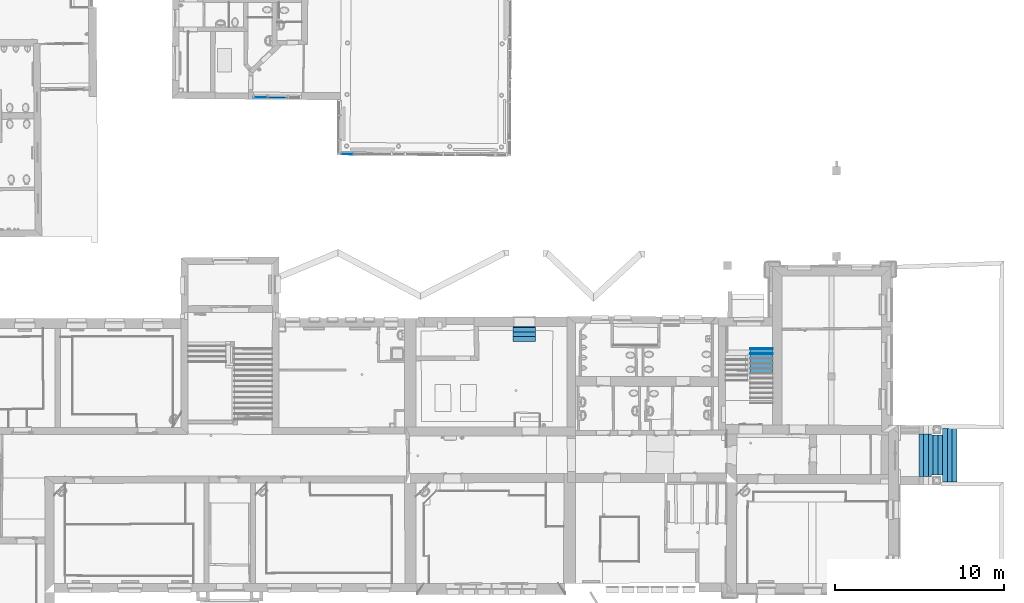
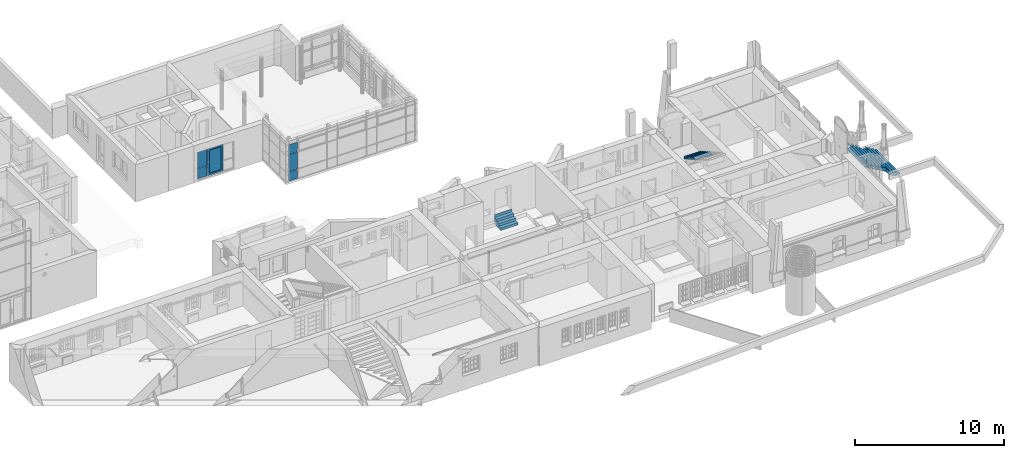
# One storey, part 138 of 196: 16 building element parts, 5 elements without a shape of their own.
"""IFC2X3 building model written with IfcOpenShell, lengths in metres."""

from ifc_helpers import new_model, entity, si_unit, converted_unit, derived_unit, money_unit, direction, frame, origin_with_axes, place, context, subcontext, project, spatial, faceted_brep, material, type_object, element, aggregate, save


model = new_model("IFC2X3")

# Units and contexts
model_context = context("Model", 3, precision=1e-05, world=origin_with_axes(), true_north=direction((0.0, 1.0)))
body_context = subcontext(model_context, "Body", "Model", "MODEL_VIEW")
ifc_project = project(units=[si_unit("LENGTHUNIT", "METRE"), si_unit("AREAUNIT", "SQUARE_METRE"), si_unit("VOLUMEUNIT", "CUBIC_METRE"), converted_unit("PLANEANGLEUNIT", "DEGREE", entity("IfcPlaneAngleMeasure", 0.0174532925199), si_unit("PLANEANGLEUNIT", "RADIAN"), dimensions=[0, 0, 0, 0, 0, 0, 0]), money_unit("EUR"), converted_unit("TIMEUNIT", "Year", entity("IfcTimeMeasure", 31556926.0), si_unit("TIMEUNIT", "SECOND"), dimensions=[0, 0, 1, 0, 0, 0, 0]), si_unit("MASSUNIT", "GRAM", prefix="KILO"), si_unit("THERMODYNAMICTEMPERATUREUNIT", "DEGREE_CELSIUS"), si_unit("LUMINOUSINTENSITYUNIT", "LUMEN"), si_unit("ENERGYUNIT", "JOULE", prefix="MEGA"), derived_unit("THERMALCONDUCTANCEUNIT", [(si_unit("POWERUNIT", "WATT"), 1), (si_unit("LENGTHUNIT", "METRE"), -1), (si_unit("THERMODYNAMICTEMPERATUREUNIT", "KELVIN"), -1)]), derived_unit("SPECIFICHEATCAPACITYUNIT", [(si_unit("ENERGYUNIT", "JOULE"), 1), (si_unit("MASSUNIT", "GRAM", prefix="KILO"), -1), (si_unit("THERMODYNAMICTEMPERATUREUNIT", "KELVIN"), -1)]), derived_unit("MASSDENSITYUNIT", [(si_unit("MASSUNIT", "GRAM", prefix="KILO"), 1), (si_unit("VOLUMEUNIT", "CUBIC_METRE"), -1)])], contexts=[model_context])

# Site, building, storey
site_placement = place(None, origin_with_axes())
site = spatial("IfcSite", under=ifc_project, at=site_placement, Name="Gelände", CompositionType="ELEMENT")
building_placement = place(site_placement, origin_with_axes())
building = spatial("IfcBuilding", under=site, at=building_placement, Name="Gebäude", CompositionType="ELEMENT")
storey_placement = place(building_placement, frame((0.0, 0.0, -3.0), z_axis=(0.0, 0.0, 1.0), x_axis=(1.0, 0.0, 0.0)))
storey = spatial("IfcBuildingStorey", under=building, at=storey_placement, Name="KELLERGESCHOSS", CompositionType="ELEMENT", Elevation=-3.0)

# Proxy, building element parts
building_element_proxy_type = type_object("IfcBuildingElementProxyType", Name="Fassadentyp", PredefinedType="NOTDEFINED")
proxy_1_placement = place(storey_placement, frame((2.54090824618, 35.7894672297, 0.610000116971), z_axis=(0.0, 0.0, 1.0), x_axis=(1.0, 0.0, 0.0)))
proxy_1 = element("IfcBuildingElementProxy", 1, at=proxy_1_placement, inside=storey, type_object=building_element_proxy_type, Name="Fassade-002")
ifc_material_1 = material(Name="45_Glas, Normalglas")
building_element_part_1_placement = place(proxy_1_placement, origin_with_axes())
building_element_part_1 = element("IfcBuildingElementPart", 2, at=building_element_part_1_placement, material=ifc_material_1, Name="45_Glas, Normalglas", context=body_context, shape_type="Brep", body=[
    faceted_brep([(-2.63393269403, 0.03908636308, 3.02649576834), (-3.31904617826, 0.0440507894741, 3.02649576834), (-3.31933601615, 0.00405183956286, 3.02649576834), (-2.63422253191, -0.000912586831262, 3.02649576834), (-2.63393269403, 0.03908636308, 2.51999988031), (-2.63393269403, 0.03908636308, 2.22648768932), (-3.31904617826, 0.0440507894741, 2.22648768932), (-3.31904617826, 0.0440507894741, 2.51999988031), (-3.31933601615, 0.00405183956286, 2.51999988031), (-3.31933601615, 0.00405183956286, 2.22648768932), (-2.63422253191, -0.000912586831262, 2.22648768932), (-2.63422253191, -0.000912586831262, 2.51999988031)], [[[0, 1, 2, 3]], [[0, 4, 5, 6, 7, 1]], [[1, 7, 8, 2]], [[3, 2, 8, 9, 10, 11]], [[4, 0, 3, 11]], [[5, 4, 11, 10]], [[6, 5, 10, 9]], [[7, 6, 9, 8]]]),
])
building_element_part_2_placement = place(proxy_1_placement, origin_with_axes())
building_element_part_2 = element("IfcBuildingElementPart", 3, at=building_element_part_2_placement, material=ifc_material_1, Name="45_Glas, Normalglas", context=body_context, shape_type="Brep", body=[
    faceted_brep([(-2.63393270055, 0.0390863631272, 0.808463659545), (-3.31904617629, 0.0440507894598, 0.808463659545), (-3.31933601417, 0.00405183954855, 0.808463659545), (-2.63422253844, -0.000912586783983, 0.808463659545), (-2.63393270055, 0.0390863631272, 0.619999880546), (-2.63393270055, 0.0390863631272, 0.0349999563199), (-3.31904617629, 0.0440507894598, 0.0350000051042), (-3.31904617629, 0.0440507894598, 0.619999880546), (-3.31933601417, 0.00405183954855, 0.619999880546), (-3.31933601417, 0.00405183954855, 0.0350000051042), (-2.63422253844, -0.000912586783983, 0.0349999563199), (-2.63422253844, -0.000912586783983, 0.619999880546)], [[[0, 1, 2, 3]], [[0, 4, 5, 6, 7, 1]], [[1, 7, 8, 2]], [[3, 2, 8, 9, 10, 11]], [[4, 0, 3, 11]], [[5, 4, 11, 10]], [[6, 5, 10, 9]], [[7, 6, 9, 8]]]),
])
building_element_part_3_placement = place(proxy_1_placement, origin_with_axes())
building_element_part_3 = element("IfcBuildingElementPart", 4, at=building_element_part_3_placement, material=ifc_material_1, Name="45_Glas, Normalglas", context=body_context, shape_type="Brep", body=[
    faceted_brep([(-2.63393269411, 0.0390863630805, 2.20648769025), (-3.31904618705, 0.0440507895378, 2.20648769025), (-3.31933602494, 0.00405183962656, 2.20648769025), (-2.63422253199, -0.000912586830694, 2.20648769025), (-2.63393269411, 0.0390863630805, 1.41999988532), (-2.63393269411, 0.0390863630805, 0.828463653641), (-3.31904618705, 0.0440507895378, 0.828463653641), (-3.31904618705, 0.0440507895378, 1.41999988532), (-3.31933602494, 0.00405183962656, 1.41999988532), (-3.31933602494, 0.00405183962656, 0.828463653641), (-2.63422253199, -0.000912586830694, 0.828463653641), (-2.63422253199, -0.000912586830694, 1.41999988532)], [[[0, 1, 2, 3]], [[0, 4, 5, 6, 7, 1]], [[1, 7, 8, 2]], [[3, 2, 8, 9, 10, 11]], [[4, 0, 3, 11]], [[5, 4, 11, 10]], [[6, 5, 10, 9]], [[7, 6, 9, 8]]]),
])
aggregate(proxy_1, [building_element_part_1, building_element_part_2, building_element_part_3])

proxy_2_placement = place(storey_placement, frame((-5.58247621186, 39.1627608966, 0.57767685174), z_axis=(0.0, 0.0, 1.0), x_axis=(1.0, 0.0, 0.0)))
proxy_2 = element("IfcBuildingElementProxy", 5, at=proxy_2_placement, inside=storey, type_object=building_element_proxy_type, Name="Fassade-002")
building_element_part_4_placement = place(proxy_2_placement, origin_with_axes())
building_element_part_4 = element("IfcBuildingElementPart", 6, at=building_element_part_4_placement, material=ifc_material_1, Name="45_Glas, Normalglas", context=body_context, shape_type="Brep", body=[
    faceted_brep([(0.398165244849, 0.0158505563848, 2.21581791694), (-0.372749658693, 0.0238866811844, 2.21581791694), (-0.373166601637, -0.0161111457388, 2.21581791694), (0.397748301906, -0.0241472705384, 2.21581791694), (0.398165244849, 0.0158505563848, 1.41999992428), (0.398165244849, 0.0158505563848, 0.879344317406), (-0.372749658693, 0.0238866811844, 0.879344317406), (-0.372749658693, 0.0238866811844, 1.41999992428), (-0.373166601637, -0.0161111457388, 1.41999992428), (-0.373166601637, -0.0161111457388, 0.879344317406), (0.397748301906, -0.0241472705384, 0.879344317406), (0.397748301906, -0.0241472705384, 1.41999992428)], [[[0, 1, 2, 3]], [[0, 4, 5, 6, 7, 1]], [[1, 7, 8, 2]], [[3, 2, 8, 9, 10, 11]], [[4, 0, 3, 11]], [[5, 4, 11, 10]], [[6, 5, 10, 9]], [[7, 6, 9, 8]]]),
])
ifc_material_2 = material(Name="53_Metall, Aluminium")
building_element_part_5_placement = place(proxy_2_placement, origin_with_axes())
building_element_part_5 = element("IfcBuildingElementPart", 7, at=building_element_part_5_placement, material=ifc_material_2, Name="53_Metall, Aluminium", context=body_context, shape_type="Brep", body=[
    faceted_brep([(0.433215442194, 0.0204854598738, 2.2008179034), (0.433215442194, 0.0204854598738, 0.0500000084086), (0.433163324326, 0.0154857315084, 0.0500000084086), (0.433163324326, 0.0154857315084, 2.2008179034), (0.478212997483, 0.0200163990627, 2.2008179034), (0.478212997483, 0.0200163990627, 0.0950000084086), (0.478160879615, 0.0150166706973, 0.0950000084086), (0.478160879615, 0.0150166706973, 2.2008179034)], [[[0, 1, 2, 3]], [[0, 4, 5, 1]], [[1, 5, 6, 2]], [[3, 2, 6, 7]], [[4, 0, 3, 7]], [[5, 4, 7, 6]]]),
    faceted_brep([(1.60053731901, 0.00831713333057, 0.0500000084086), (1.55553976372, 0.00878619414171, 0.0950000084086), (1.55548764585, 0.0037864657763, 0.0950000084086), (1.60048520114, 0.00331740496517, 0.0500000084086), (0.433215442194, 0.0204854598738, 0.0500000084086), (0.478212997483, 0.0200163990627, 0.0950000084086), (0.478160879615, 0.0150166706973, 0.0950000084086), (0.433163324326, 0.0154857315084, 0.0500000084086)], [[[0, 1, 2, 3]], [[0, 4, 5, 1]], [[1, 5, 6, 2]], [[3, 2, 6, 7]], [[4, 0, 3, 7]], [[5, 4, 7, 6]]]),
    faceted_brep([(1.60053731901, 0.00831713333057, 2.2008179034), (1.55553976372, 0.00878619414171, 2.2008179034), (1.55548764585, 0.0037864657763, 2.2008179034), (1.60048520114, 0.00331740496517, 2.2008179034), (1.60053731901, 0.00831713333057, 0.0500000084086), (1.55553976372, 0.00878619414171, 0.0950000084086), (1.55548764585, 0.0037864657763, 0.0950000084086), (1.60048520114, 0.00331740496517, 0.0500000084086)], [[[0, 1, 2, 3]], [[0, 4, 5, 1]], [[1, 5, 6, 2]], [[3, 2, 6, 7]], [[4, 0, 3, 7]], [[5, 4, 7, 6]]]),
    faceted_brep([(0.433163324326, 0.0154857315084, 2.2008179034), (0.433163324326, 0.0154857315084, 0.0500000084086), (0.432642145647, -0.0345115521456, 0.0500000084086), (0.432642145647, -0.0345115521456, 2.2008179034), (0.453162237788, 0.0152772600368, 2.2008179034), (0.453162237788, 0.0152772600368, 0.0700000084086), (0.452641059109, -0.0347200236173, 0.0700000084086), (0.452641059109, -0.0347200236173, 2.2008179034)], [[[0, 1, 2, 3]], [[0, 4, 5, 1]], [[1, 5, 6, 2]], [[3, 2, 6, 7]], [[4, 0, 3, 7]], [[5, 4, 7, 6]]]),
    faceted_brep([(1.60048520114, 0.00331740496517, 0.0500000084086), (1.58048628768, 0.00352587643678, 0.0700000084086), (1.579965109, -0.0464714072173, 0.0700000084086), (1.59996402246, -0.0466798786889, 0.0500000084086), (0.433163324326, 0.0154857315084, 0.0500000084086), (0.453162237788, 0.0152772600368, 0.0700000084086), (0.452641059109, -0.0347200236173, 0.0700000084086), (0.432642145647, -0.0345115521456, 0.0500000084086)], [[[0, 1, 2, 3]], [[0, 4, 5, 1]], [[1, 5, 6, 2]], [[3, 2, 6, 7]], [[4, 0, 3, 7]], [[5, 4, 7, 6]]]),
    faceted_brep([(1.60048520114, 0.00331740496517, 2.2008179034), (1.58048628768, 0.00352587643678, 2.2008179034), (1.579965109, -0.0464714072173, 2.2008179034), (1.59996402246, -0.0466798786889, 2.2008179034), (1.60048520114, 0.00331740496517, 0.0500000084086), (1.58048628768, 0.00352587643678, 0.0700000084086), (1.579965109, -0.0464714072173, 0.0700000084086), (1.59996402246, -0.0466798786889, 0.0500000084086)], [[[0, 1, 2, 3]], [[0, 4, 5, 1]], [[1, 5, 6, 2]], [[3, 2, 6, 7]], [[4, 0, 3, 7]], [[5, 4, 7, 6]]]),
    faceted_brep([(0.418164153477, 0.0156420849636, 0.0349999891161), (1.61548437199, 0.00316105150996, 0.0349999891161), (1.61506742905, -0.0368367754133, 0.0349999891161), (0.417747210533, -0.0243557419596, 0.0349999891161), (0.433163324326, 0.0154857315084, 0.0500000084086), (1.60048520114, 0.00331740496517, 0.0500000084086), (1.6000682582, -0.0366804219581, 0.0500000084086), (0.432746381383, -0.0245120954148, 0.0500000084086)], [[[0, 1, 2, 3]], [[0, 4, 5, 1]], [[1, 5, 6, 2]], [[3, 2, 6, 7]], [[4, 0, 3, 7]], [[5, 4, 7, 6]]]),
    faceted_brep([(1.61548437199, 0.00316105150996, 0.0349999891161), (1.61548437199, 0.00316105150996, 2.21581792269), (1.61506742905, -0.0368367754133, 2.21581792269), (1.61506742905, -0.0368367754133, 0.0349999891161), (1.60048520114, 0.00331740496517, 0.0500000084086), (1.60048520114, 0.00331740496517, 2.2008179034), (1.6000682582, -0.0366804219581, 2.2008179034), (1.6000682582, -0.0366804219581, 0.0500000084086)], [[[0, 1, 2, 3]], [[0, 4, 5, 1]], [[1, 5, 6, 2]], [[3, 2, 6, 7]], [[4, 0, 3, 7]], [[5, 4, 7, 6]]]),
    faceted_brep([(1.61548437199, 0.00316105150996, 2.21581792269), (0.418164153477, 0.0156420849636, 2.21581792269), (0.417747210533, -0.0243557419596, 2.21581792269), (1.61506742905, -0.0368367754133, 2.21581792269), (1.60048520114, 0.00331740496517, 2.2008179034), (0.433163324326, 0.0154857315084, 2.2008179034), (0.432746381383, -0.0245120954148, 2.2008179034), (1.6000682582, -0.0366804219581, 2.2008179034)], [[[0, 1, 2, 3]], [[0, 4, 5, 1]], [[1, 5, 6, 2]], [[3, 2, 6, 7]], [[4, 0, 3, 7]], [[5, 4, 7, 6]]]),
    faceted_brep([(0.418164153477, 0.0156420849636, 2.21581792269), (0.418164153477, 0.0156420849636, 0.0349999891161), (0.417747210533, -0.0243557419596, 0.0349999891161), (0.417747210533, -0.0243557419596, 2.21581792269), (0.433163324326, 0.0154857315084, 2.2008179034), (0.433163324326, 0.0154857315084, 0.0500000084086), (0.432746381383, -0.0245120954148, 0.0500000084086), (0.432746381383, -0.0245120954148, 2.2008179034)], [[[0, 1, 2, 3]], [[0, 4, 5, 1]], [[1, 5, 6, 2]], [[3, 2, 6, 7]], [[4, 0, 3, 7]], [[5, 4, 7, 6]]]),
    faceted_brep([(1.46049280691, 0.00477670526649, 2.0808179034), (1.46049280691, 0.00477670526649, 0.190000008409), (1.45997162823, -0.0452205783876, 0.190000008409), (1.45997162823, -0.0452205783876, 2.0808179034), (1.58048628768, 0.00352587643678, 2.2008179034), (1.58048628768, 0.00352587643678, 0.0700000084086), (1.579965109, -0.0464714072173, 0.0700000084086), (1.579965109, -0.0464714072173, 2.2008179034)], [[[0, 1, 2, 3]], [[0, 4, 5, 1]], [[1, 5, 6, 2]], [[3, 2, 6, 7]], [[4, 0, 3, 7]], [[5, 4, 7, 6]]]),
    faceted_brep([(0.453162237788, 0.0152772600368, 2.2008179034), (0.453162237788, 0.0152772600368, 0.0700000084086), (0.452641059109, -0.0347200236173, 0.0700000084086), (0.452641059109, -0.0347200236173, 2.2008179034), (0.573155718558, 0.0140264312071, 2.0808179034), (0.573155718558, 0.0140264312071, 0.190000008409), (0.572634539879, -0.035970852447, 0.190000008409), (0.572634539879, -0.035970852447, 2.0808179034)], [[[0, 1, 2, 3]], [[0, 4, 5, 1]], [[1, 5, 6, 2]], [[3, 2, 6, 7]], [[4, 0, 3, 7]], [[5, 4, 7, 6]]]),
    faceted_brep([(0.453162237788, 0.0152772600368, 2.2008179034), (0.573155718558, 0.0140264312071, 2.0808179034), (0.572634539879, -0.035970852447, 2.0808179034), (0.452641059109, -0.0347200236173, 2.2008179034), (1.58048628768, 0.00352587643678, 2.2008179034), (1.46049280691, 0.00477670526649, 2.0808179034), (1.45997162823, -0.0452205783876, 2.0808179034), (1.579965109, -0.0464714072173, 2.2008179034)], [[[0, 1, 2, 3]], [[0, 4, 5, 1]], [[1, 5, 6, 2]], [[3, 2, 6, 7]], [[4, 0, 3, 7]], [[5, 4, 7, 6]]]),
    faceted_brep([(1.58048628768, 0.00352587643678, 0.0700000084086), (1.46049280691, 0.00477670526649, 0.190000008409), (1.45997162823, -0.0452205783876, 0.190000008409), (1.579965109, -0.0464714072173, 0.0700000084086), (0.453162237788, 0.0152772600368, 0.0700000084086), (0.573155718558, 0.0140264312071, 0.190000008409), (0.572634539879, -0.035970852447, 0.190000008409), (0.452641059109, -0.0347200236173, 0.0700000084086)], [[[0, 1, 2, 3]], [[0, 4, 5, 1]], [[1, 5, 6, 2]], [[3, 2, 6, 7]], [[4, 0, 3, 7]], [[5, 4, 7, 6]]]),
])
building_element_part_6_placement = place(proxy_2_placement, origin_with_axes())
building_element_part_6 = element("IfcBuildingElementPart", 8, at=building_element_part_6_placement, material=ifc_material_1, Name="45_Glas, Normalglas", context=body_context, shape_type="Brep", body=[
    faceted_brep([(1.46024264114, -0.0192219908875, 2.0808179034), (0.572905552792, -0.00997226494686, 2.0808179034), (0.572738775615, -0.0259713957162, 2.0808179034), (1.46007586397, -0.0352211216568, 2.0808179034), (1.46024264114, -0.0192219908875, 0.190000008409), (0.572905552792, -0.00997226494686, 0.190000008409), (0.572738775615, -0.0259713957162, 0.190000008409), (1.46007586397, -0.0352211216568, 0.190000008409)], [[[0, 1, 2, 3]], [[0, 4, 5, 1]], [[1, 5, 6, 2]], [[3, 2, 6, 7]], [[4, 0, 3, 7]], [[5, 4, 7, 6]]]),
])
building_element_part_7_placement = place(proxy_2_placement, origin_with_axes())
building_element_part_7 = element("IfcBuildingElementPart", 9, at=building_element_part_7_placement, material=ifc_material_1, Name="45_Glas, Normalglas", context=body_context, shape_type="Brep", body=[
    faceted_brep([(0.398165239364, 0.015850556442, 0.859344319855), (-0.372749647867, 0.0238866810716, 0.859344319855), (-0.37316659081, -0.0161111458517, 0.859344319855), (0.397748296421, -0.0241472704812, 0.859344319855), (0.398165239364, 0.015850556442, 0.619999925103), (0.398165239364, 0.015850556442, 0.0350000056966), (-0.372749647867, 0.0238866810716, 0.0350000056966), (-0.372749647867, 0.0238866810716, 0.619999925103), (-0.37316659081, -0.0161111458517, 0.619999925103), (-0.37316659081, -0.0161111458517, 0.0350000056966), (0.397748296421, -0.0241472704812, 0.0350000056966), (0.397748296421, -0.0241472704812, 0.619999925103)], [[[0, 1, 2, 3]], [[0, 4, 5, 6, 7, 1]], [[1, 7, 8, 2]], [[3, 2, 8, 9, 10, 11]], [[4, 0, 3, 11]], [[5, 4, 11, 10]], [[6, 5, 10, 9]], [[7, 6, 9, 8]]]),
])
aggregate(proxy_2, [building_element_part_4, building_element_part_5, building_element_part_6, building_element_part_7])

# Stair, building element part
stair_1_placement = place(storey_placement, frame((35.5514204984, 17.3617552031, 0.217201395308), z_axis=(0.0, 0.0, 1.0), x_axis=(0.000899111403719, 0.999999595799, 0.0)))
stair_1 = element("IfcStair", 10, at=stair_1_placement, inside=storey, Name="Treppe-003", ShapeType="NOTDEFINED")
ifc_material_3 = material(Name="05_ALLGEMEIN - TRAGENDE BAUTEILE")
building_element_part_8_placement = place(stair_1_placement, origin_with_axes())
building_element_part_8 = element("IfcBuildingElementPart", 11, at=building_element_part_8_placement, material=ifc_material_3, Name="05_ALLGEMEIN - TRAGENDE BAUTEILE", context=body_context, shape_type="Brep", body=[
    faceted_brep([(1.927853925, 2.2412398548, 1.52279860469), (-0.587901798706, 2.23897790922, 1.52279860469), (-0.587916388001, 2.23705655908, 1.52279860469), (2.2349659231, 2.23940827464, 1.52279860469), (2.23496302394, 2.24288827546, 1.52279860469), (1.92787517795, 2.24474843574, 1.52279860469), (1.927853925, 2.2412398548, 1.35979860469), (1.927853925, 2.2412398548, 1.27829860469), (-0.587901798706, 2.23897790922, 1.27829860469), (-0.585927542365, 2.49897933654, 1.27829860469), (-0.588624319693, 2.14382487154, 1.06345004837), (-0.589332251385, 2.050593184, 1.00705010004), (-0.590040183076, 1.95736149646, 0.950650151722), (-0.590748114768, 1.86412980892, 0.8942502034), (-0.59145604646, 1.77089812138, 0.837850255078), (-0.592163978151, 1.67766643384, 0.781450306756), (-0.592871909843, 1.5844347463, 0.725050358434), (-0.593542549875, 1.4961142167, 0.671621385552), (-0.593542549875, 1.4961142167, 1.01519906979), (-0.592163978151, 1.67766643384, 1.01519906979), (-0.592163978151, 1.67766643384, 1.18439891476), (-0.590040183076, 1.95736149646, 1.18439891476), (-0.590040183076, 1.95736149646, 1.35359875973), (-0.587916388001, 2.23705655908, 1.35359875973), (1.92784128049, 2.23915241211, 1.35359875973), (1.92784128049, 2.23915241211, 1.35979860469), (2.2349659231, 2.23940827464, 1.35979860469), (2.23496302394, 2.24288827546, 1.35979860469), (1.92787517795, 2.24474843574, 1.35979860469), (1.92616810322, 1.96293298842, 1.35359875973), (1.92616810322, 1.96293298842, 1.19679860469), (1.92614705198, 1.95945770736, 1.19679860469), (1.92614705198, 1.95945770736, 1.18439891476), (1.92447387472, 1.68323828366, 1.18439891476), (1.92447387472, 1.68323828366, 1.03379860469), (1.92445282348, 1.67976300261, 1.03379860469), (1.92445282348, 1.67976300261, 1.01519906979), (1.92335046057, 1.4977774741, 1.01519906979), (1.92335046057, 1.4977774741, 0.671359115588), (1.92388808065, 1.58653143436, 0.725050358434), (1.92445282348, 1.67976300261, 0.781450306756), (1.92501756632, 1.77299457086, 0.837850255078), (1.92558230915, 1.86622613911, 0.8942502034), (1.92614705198, 1.95945770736, 0.950650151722), (1.92671179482, 2.05268927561, 1.00705010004), (1.92727653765, 2.14592084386, 1.06345004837), (1.92942785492, 2.50107485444, 1.27829860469), (1.86703433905, 1.49839963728, 0.67176387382), (1.86697747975, 1.49325292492, 0.668650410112), (-0.494773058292, 1.49128537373, 0.668650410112), (-0.494731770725, 1.49502258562, 0.670911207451), (-0.494731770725, 1.49502258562, 1.01519906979), (1.86703433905, 1.49839963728, 1.01519906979), (-0.495803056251, 1.39805341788, 1.01519906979), (1.86594748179, 1.40002096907, 1.01519906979), (2.23543194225, 1.68002207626, 1.03379860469), (2.23543194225, 1.68002207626, 1.18439891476), (2.23543083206, 1.68135468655, 1.18439891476), (2.23519893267, 1.95971517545, 1.19679860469), (2.23519893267, 1.95971517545, 1.35359875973), (2.23519781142, 1.96106106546, 1.35359875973), (2.23519781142, 1.96106106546, 1.19679860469), (2.23543083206, 1.68135468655, 1.03379860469), (1.86285748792, 1.12032510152, 0.443050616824), (1.86388748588, 1.21355705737, 0.499450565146), (1.86491748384, 1.30678901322, 0.555850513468), (1.86594748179, 1.40002096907, 0.61225046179), (1.86594748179, 1.40002096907, 0.845999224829), (1.86285748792, 1.12032510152, 0.845999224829), (1.86285748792, 1.12032510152, 0.676799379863), (1.85990901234, 0.853438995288, 0.676799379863), (1.85990901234, 0.853438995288, 0.281599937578), (1.860797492, 0.933861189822, 0.330250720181), (1.86182748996, 1.02709314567, 0.386650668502), (-0.495803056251, 1.39805341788, 0.61225046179), (-0.496833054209, 1.30482146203, 0.555850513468), (-0.497863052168, 1.21158950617, 0.499450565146), (-0.498893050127, 1.11835755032, 0.443050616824), (-0.499923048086, 1.02512559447, 0.386650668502), (-0.500953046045, 0.931893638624, 0.330250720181), (-0.50185709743, 0.850061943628, 0.28074727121), (-0.50185709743, 0.850061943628, 0.676799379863), (-0.498893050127, 1.11835755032, 0.676799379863), (-0.498893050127, 1.11835755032, 0.845999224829), (-0.495803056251, 1.39805341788, 0.845999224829), (-0.909748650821, 0.854568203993, 0.676799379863), (-0.909735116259, 0.838321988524, 0.676799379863), (2.23613097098, 0.840942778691, 0.676799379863), (2.23612402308, 0.849282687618, 0.676799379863), (2.23612402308, 0.849282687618, 0.278895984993), (-0.909748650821, 0.854568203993, 0.283678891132), (2.23613097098, 0.840942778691, 0.273850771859), (-0.909735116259, 0.838321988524, 0.273850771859), (-0.909357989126, 0.3856373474, 0.0), (-0.90903608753, -0.000757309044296, 0.0), (-0.90903608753, -0.000757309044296, 0.169199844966), (-0.909269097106, 0.278935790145, 0.169199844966), (-0.909269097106, 0.278935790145, 0.338399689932), (-0.909502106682, 0.558628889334, 0.338399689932), (-0.909502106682, 0.558628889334, 0.507599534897), (-0.909735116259, 0.838321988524, 0.507599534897), (-0.9096574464, 0.74509095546, 0.217450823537), (-0.909579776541, 0.651859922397, 0.161050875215), (-0.909502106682, 0.558628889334, 0.104650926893), (-0.909424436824, 0.465397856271, 0.048250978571), (2.23613097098, 0.840942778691, 0.507599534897), (2.23659699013, 0.281556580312, 0.338399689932), (2.23659699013, 0.281556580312, 0.169199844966), (2.23682999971, 0.00186348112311, 0.169199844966), (2.23682999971, 0.00186348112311, 0.0), (2.23650809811, 0.388258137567, 0.0), (2.23644165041, 0.468018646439, 0.048250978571), (2.23636398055, 0.561249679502, 0.104650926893), (2.2362863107, 0.654480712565, 0.161050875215), (2.23620864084, 0.747711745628, 0.217450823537), (2.23636398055, 0.561249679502, 0.507599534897), (2.23636398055, 0.561249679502, 0.338399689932)], [[[0, 1, 2, 3, 4, 5]], [[1, 0, 6, 7, 8]], [[8, 9, 10, 11, 12, 13, 14, 15, 16, 17, 18, 19, 20, 21, 22, 23, 2, 1]], [[3, 2, 23, 24, 25, 26]], [[27, 4, 3, 26]], [[28, 5, 4, 27]], [[0, 5, 28, 6]], [[7, 6, 25, 24, 29, 30, 31, 32, 33, 34, 35, 36, 37, 38, 39, 40, 41, 42, 43, 44, 45, 46]], [[7, 46, 9, 8]], [[9, 46, 45, 10]], [[45, 44, 11, 10]], [[44, 43, 12, 11]], [[42, 13, 12, 43]], [[13, 42, 41, 14]], [[14, 41, 40, 15]], [[40, 39, 16, 15]], [[47, 48, 49, 50, 17, 16, 39, 38]], [[18, 17, 50, 51]], [[52, 37, 36, 19, 18, 51, 53, 54]], [[35, 55, 56, 20, 19, 36]], [[33, 32, 21, 20, 56, 57]], [[58, 59, 22, 21, 32, 31]], [[24, 23, 22, 59, 60, 29]], [[6, 28, 27, 26, 25]], [[60, 61, 30, 29]], [[30, 61, 58, 31]], [[34, 33, 57, 62]], [[35, 34, 62, 55]], [[52, 47, 38, 37]], [[63, 64, 65, 66, 48, 47, 52, 54, 67, 68, 69, 70, 71, 72, 73]], [[66, 74, 49, 48]], [[50, 49, 74, 75, 76, 77, 78, 79, 80, 81, 82, 83, 84, 53, 51]], [[54, 53, 84, 67]], [[55, 62, 57, 56]], [[59, 58, 61, 60]], [[63, 77, 76, 64]], [[64, 76, 75, 65]], [[65, 75, 74, 66]], [[67, 84, 83, 68]], [[68, 83, 82, 69]], [[82, 81, 85, 86, 87, 88, 70, 69]], [[89, 71, 70, 88]], [[90, 80, 79, 72, 71, 89, 91, 92]], [[72, 79, 78, 73]], [[73, 78, 77, 63]], [[90, 85, 81, 80]], [[93, 94, 95, 96, 97, 98, 99, 100, 86, 85, 90, 92, 101, 102, 103, 104]], [[100, 105, 87, 86]], [[106, 107, 108, 109, 110, 111, 112, 113, 114, 91, 89, 88, 87, 105, 115, 116]], [[92, 91, 114, 101]], [[93, 110, 109, 94]], [[94, 109, 108, 95]], [[95, 108, 107, 96]], [[96, 107, 106, 97]], [[97, 106, 116, 98]], [[98, 116, 115, 99]], [[99, 115, 105, 100]], [[101, 114, 113, 102]], [[102, 113, 112, 103]], [[103, 112, 111, 104]], [[104, 111, 110, 93]]]),
    faceted_brep([(-0.868220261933, 2.23682304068, 1.35979860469), (-0.868220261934, 2.23682304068, 1.52279860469), (-0.91090016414, 2.23678748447, 1.52279860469), (-0.91090016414, 2.23678748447, 1.35979860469), (-0.910900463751, 2.2371471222, 1.52279860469), (-0.910900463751, 2.2371471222, 1.35979860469)], [[[0, 1, 2, 3]], [[4, 1, 0, 5]], [[1, 4, 2]], [[4, 5, 3, 2]], [[5, 0, 3]]]),
])
aggregate(stair_1, [building_element_part_8])

stair_2_placement = place(storey_placement, frame((9.33941208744, 24.7602296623, -0.263535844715), z_axis=(0.0, 0.0, 1.0), x_axis=(0.999967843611, 0.00801946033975, 0.0)))
stair_2 = element("IfcStair", 12, at=stair_2_placement, inside=storey, Name="Treppe-003", ShapeType="NOTDEFINED")
building_element_part_9_placement = place(stair_2_placement, origin_with_axes())
building_element_part_9 = element("IfcBuildingElementPart", 13, at=building_element_part_9_placement, material=ifc_material_3, Name="05_ALLGEMEIN - TRAGENDE BAUTEILE", context=body_context, shape_type="Brep", body=[
    faceted_brep([(0.0, 0.0, 0.00353584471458), (1.32996949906, -0.00900730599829, 0.00353584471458), (1.32996949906, -0.00900730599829, 0.199967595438), (0.0, 0.0, 0.199967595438), (1.33584620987, 0.858715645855, 0.00353584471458), (0.00587292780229, 0.867164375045, 0.00353584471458), (1.33584620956, 0.858715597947, 0.799870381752), (1.33551631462, 0.810005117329, 0.799870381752), (1.33551631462, 0.810005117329, 0.599902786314), (1.3336673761, 0.53700097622, 0.599902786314), (1.3336673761, 0.53700097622, 0.399935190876), (1.33181843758, 0.263996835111, 0.399935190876), (1.33181843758, 0.263996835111, 0.199967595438), (0.00184893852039, 0.273004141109, 0.199967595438), (0.00184893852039, 0.273004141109, 0.399935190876), (0.00369787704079, 0.546008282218, 0.399935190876), (0.00369787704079, 0.546008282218, 0.599902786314), (0.00554681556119, 0.819012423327, 0.599902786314), (0.00554681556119, 0.819012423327, 0.799870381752), (0.00587292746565, 0.867164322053, 0.799870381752)], [[[0, 1, 2, 3]], [[4, 1, 0, 5]], [[1, 4, 6, 7, 8, 9, 10, 11, 12, 2]], [[3, 2, 12, 13]], [[5, 0, 3, 13, 14, 15, 16, 17, 18, 19]], [[4, 5, 19, 6]], [[7, 6, 19, 18]], [[7, 18, 17, 8]], [[16, 9, 8, 17]], [[9, 16, 15, 10]], [[14, 11, 10, 15]], [[11, 14, 13, 12]]]),
])
aggregate(stair_2, [building_element_part_9])

# Stair, building element parts
stair_3_placement = place(storey_placement, frame((24.6725474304, 24.3859314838, 1.00560399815), z_axis=(0.0, 0.0, 1.0), x_axis=(-0.999999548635, 0.000950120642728, 0.0)))
stair_3 = element("IfcStair", 14, at=stair_3_placement, inside=storey, Name="Treppe-003", ShapeType="NOTDEFINED")
building_element_part_10_placement = place(stair_3_placement, origin_with_axes())
building_element_part_10 = element("IfcBuildingElementPart", 15, at=building_element_part_10_placement, material=ifc_material_3, Name="05_ALLGEMEIN - TRAGENDE BAUTEILE", context=body_context, shape_type="Brep", body=[
    faceted_brep([(1.32995944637, 0.0510673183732, 0.121616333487), (1.32992734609, 0.0910673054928, 0.121616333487), (-7.22256410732e-05, 0.0899999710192, 0.121616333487), (-4.01253561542e-05, 0.0499999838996, 0.121616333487), (1.32995944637, 0.0510673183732, 0.0), (1.32992734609, 0.0910673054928, 0.0), (-7.22256410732e-05, 0.0899999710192, 0.0), (-4.01253561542e-05, 0.0499999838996, 0.0)], [[[0, 1, 2, 3]], [[0, 4, 5, 1]], [[1, 5, 6, 2]], [[3, 2, 6, 7]], [[4, 0, 3, 7]], [[5, 4, 7, 6]]]),
])
building_element_part_11_placement = place(stair_3_placement, origin_with_axes())
building_element_part_11 = element("IfcBuildingElementPart", 16, at=building_element_part_11_placement, material=ifc_material_3, Name="05_ALLGEMEIN - TRAGENDE BAUTEILE", context=body_context, shape_type="Brep", body=[
    faceted_brep([(1.32972639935, 0.341465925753, 0.283232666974), (1.32969429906, 0.381465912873, 0.283232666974), (-0.000305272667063, 0.380398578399, 0.283232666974), (-0.000273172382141, 0.34039859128, 0.283232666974), (1.32972639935, 0.341465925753, 0.161616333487), (1.32969429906, 0.381465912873, 0.161616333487), (-0.000305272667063, 0.380398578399, 0.161616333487), (-0.000273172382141, 0.34039859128, 0.161616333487)], [[[0, 1, 2, 3]], [[0, 4, 5, 1]], [[1, 5, 6, 2]], [[3, 2, 6, 7]], [[4, 0, 3, 7]], [[5, 4, 7, 6]]]),
])
building_element_part_12_placement = place(stair_3_placement, origin_with_axes())
building_element_part_12 = element("IfcBuildingElementPart", 17, at=building_element_part_12_placement, material=ifc_material_3, Name="05_ALLGEMEIN - TRAGENDE BAUTEILE", context=body_context, shape_type="Brep", body=[
    faceted_brep([(0.0, 0.0, 0.121616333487), (1.32999957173, 0.00106733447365, 0.121616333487), (1.32999957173, 0.00106733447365, 0.161616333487), (0.0, 0.0, 0.161616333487), (-0.000305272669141, 0.380398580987, 0.121616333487), (1.32969429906, 0.381465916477, 0.121616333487), (1.32969429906, 0.381465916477, 0.161616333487), (-0.000305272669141, 0.380398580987, 0.161616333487)], [[[0, 1, 2, 3]], [[0, 4, 5, 1]], [[1, 5, 6, 2]], [[3, 2, 6, 7]], [[4, 0, 3, 7]], [[5, 4, 7, 6]]]),
])
building_element_part_13_placement = place(stair_3_placement, origin_with_axes())
building_element_part_13 = element("IfcBuildingElementPart", 18, at=building_element_part_13_placement, material=ifc_material_3, Name="05_ALLGEMEIN - TRAGENDE BAUTEILE", context=body_context, shape_type="Brep", body=[
    faceted_brep([(-0.000233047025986, 0.29039860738, 0.323232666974), (-0.000233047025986, 0.29039860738, 0.283232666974), (1.3297665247, 0.291465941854, 0.283232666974), (1.3297665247, 0.291465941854, 0.323232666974), (-0.000538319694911, 0.670797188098, 0.323232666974), (-0.000538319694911, 0.670797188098, 0.283232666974), (1.32946125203, 0.671864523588, 0.283232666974), (1.32946125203, 0.671864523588, 0.323232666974)], [[[0, 1, 2, 3]], [[4, 5, 1, 0]], [[2, 1, 5, 6]], [[3, 2, 6, 7]], [[4, 0, 3, 7]], [[7, 6, 5, 4]]]),
])
building_element_part_14_placement = place(stair_3_placement, origin_with_axes())
building_element_part_14 = element("IfcBuildingElementPart", 19, at=building_element_part_14_placement, material=ifc_material_3, Name="05_ALLGEMEIN - TRAGENDE BAUTEILE", context=body_context, shape_type="Brep", body=[
    faceted_brep([(-0.000466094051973, 0.58079721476, 0.484849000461), (-0.000466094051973, 0.58079721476, 0.444849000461), (1.32953347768, 0.581864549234, 0.444849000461), (1.32953347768, 0.581864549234, 0.484849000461), (-0.000771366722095, 0.961195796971, 0.484849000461), (-0.000771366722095, 0.961195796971, 0.444849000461), (1.32922820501, 0.962263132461, 0.444849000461), (1.32922820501, 0.962263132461, 0.484849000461)], [[[0, 1, 2, 3]], [[4, 5, 1, 0]], [[2, 1, 5, 6]], [[3, 2, 6, 7]], [[4, 0, 3, 7]], [[7, 6, 5, 4]]]),
])
building_element_part_15_placement = place(stair_3_placement, origin_with_axes())
building_element_part_15 = element("IfcBuildingElementPart", 20, at=building_element_part_15_placement, material=ifc_material_3, Name="05_ALLGEMEIN - TRAGENDE BAUTEILE", context=body_context, shape_type="Brep", body=[
    faceted_brep([(-0.000699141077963, 0.87119582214, 0.646465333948), (-0.000699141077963, 0.87119582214, 0.606465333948), (1.32930043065, 0.872263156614, 0.606465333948), (1.32930043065, 0.872263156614, 0.646465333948), (-0.00100441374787, 1.25159440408, 0.646465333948), (-0.00100441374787, 1.25159440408, 0.606465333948), (1.32899515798, 1.25266173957, 0.606465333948), (1.32899515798, 1.25266173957, 0.646465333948)], [[[0, 1, 2, 3]], [[4, 5, 1, 0]], [[2, 1, 5, 6]], [[3, 2, 6, 7]], [[4, 0, 3, 7]], [[7, 6, 5, 4]]]),
])
building_element_part_16_placement = place(stair_3_placement, origin_with_axes())
building_element_part_16 = element("IfcBuildingElementPart", 21, at=building_element_part_16_placement, material=ifc_material_3, Name="05_ALLGEMEIN - TRAGENDE BAUTEILE", context=body_context, shape_type="Brep", body=[
    faceted_brep([(-0.000932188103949, 1.16159442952, 0.808081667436), (-0.000932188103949, 1.16159442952, 0.768081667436), (1.32906738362, 1.16266176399, 0.768081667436), (1.32906738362, 1.16266176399, 0.808081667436), (-0.00123746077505, 1.54199301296, 0.808081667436), (-0.00123746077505, 1.54199301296, 0.768081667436), (1.32876211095, 1.54306034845, 0.768081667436), (1.32876211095, 1.54306034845, 0.808081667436)], [[[0, 1, 2, 3]], [[4, 5, 1, 0]], [[2, 1, 5, 6]], [[3, 2, 6, 7]], [[4, 0, 3, 7]], [[7, 6, 5, 4]]]),
])
aggregate(stair_3, [building_element_part_10, building_element_part_11, building_element_part_12, building_element_part_13, building_element_part_14, building_element_part_15, building_element_part_16])

save(model, "model.ifc")
